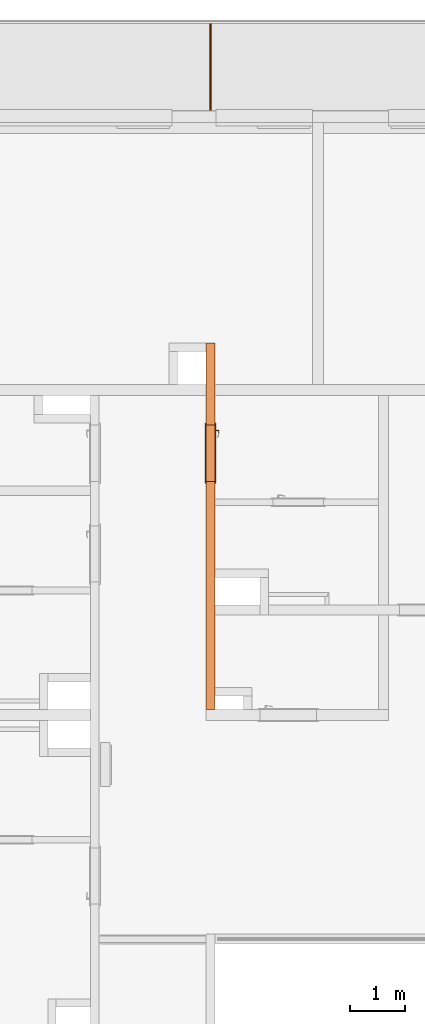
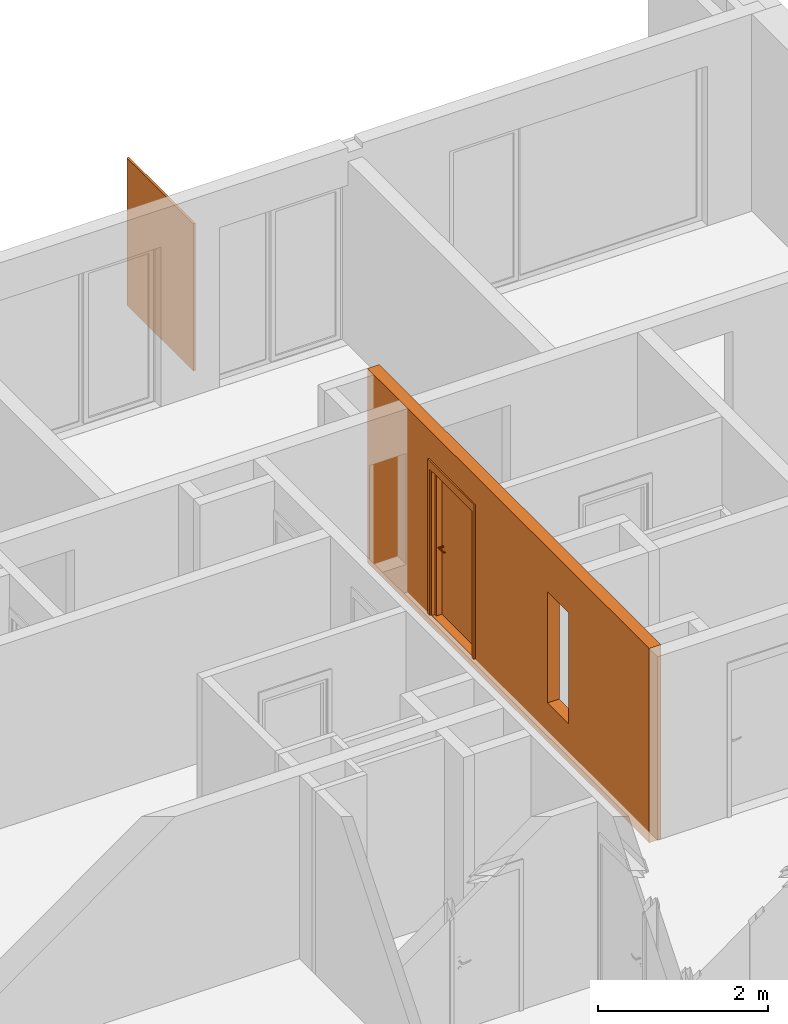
# One storey, part 32 of 67: 3 proxies, 2 openings.
"""IFC2X3 building model written with IfcOpenShell, lengths in millimetres."""

from ifc_helpers import new_model, entity, si_unit, converted_unit, derived_unit, money_unit, direction, frame, origin_with_axes, origin_2d_with_axis, place, context, subcontext, project, spatial, polyline, rectangle, outline, extrude, open_shell, faceted_brep, surface_model, source, transform, mapped, material, type_object, element, fill, save


model = new_model("IFC2X3")

# Units and contexts
model_context = context("Model", 3, precision=0.01, world=origin_with_axes(), true_north=direction((0.34421633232, 0.938890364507)))
body_context = subcontext(model_context, "Body", "Model", "MODEL_VIEW")
ifc_project = project(units=[si_unit("LENGTHUNIT", "METRE", prefix="MILLI"), si_unit("AREAUNIT", "SQUARE_METRE"), si_unit("VOLUMEUNIT", "CUBIC_METRE"), converted_unit("PLANEANGLEUNIT", "DEGREE", entity("IfcPlaneAngleMeasure", 0.0174532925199), si_unit("PLANEANGLEUNIT", "RADIAN"), dimensions=[0, 0, 0, 0, 0, 0, 0]), si_unit("SOLIDANGLEUNIT", "STERADIAN"), money_unit("USD"), converted_unit("TIMEUNIT", "Year", entity("IfcTimeMeasure", 31556926.0), si_unit("TIMEUNIT", "SECOND"), dimensions=[0, 0, 1, 0, 0, 0, 0]), si_unit("MASSUNIT", "GRAM", prefix="KILO"), si_unit("THERMODYNAMICTEMPERATUREUNIT", "DEGREE_CELSIUS"), si_unit("LUMINOUSINTENSITYUNIT", "LUMEN"), si_unit("ENERGYUNIT", "JOULE", prefix="MEGA"), derived_unit("THERMALCONDUCTANCEUNIT", [(si_unit("POWERUNIT", "WATT"), 1), (si_unit("LENGTHUNIT", "METRE"), -1), (si_unit("THERMODYNAMICTEMPERATUREUNIT", "KELVIN"), -1)]), derived_unit("SPECIFICHEATCAPACITYUNIT", [(si_unit("ENERGYUNIT", "JOULE"), 1), (si_unit("MASSUNIT", "GRAM", prefix="KILO"), -1), (si_unit("THERMODYNAMICTEMPERATUREUNIT", "KELVIN"), -1)]), derived_unit("MASSDENSITYUNIT", [(si_unit("MASSUNIT", "GRAM", prefix="KILO"), 1), (si_unit("VOLUMEUNIT", "CUBIC_METRE"), -1)])], contexts=[model_context])

# Site, building, storey
site_placement = place(None, origin_with_axes())
site = spatial("IfcSite", under=ifc_project, at=site_placement, Name="USTRONIE MORSKIE", CompositionType="ELEMENT")
building_placement = place(site_placement, origin_with_axes())
building = spatial("IfcBuilding", under=site, at=building_placement, Name="Budynek", CompositionType="ELEMENT")
storey_placement = place(building_placement, frame((0.0, 0.0, 4000.0), z_axis=(0.0, 0.0, 1.0), x_axis=(1.0, 0.0, 0.0)))
storey = spatial("IfcBuildingStorey", under=building, at=storey_placement, Name="PIĘTRO 1", CompositionType="ELEMENT", Elevation=4000.0)

# Proxies, openings
ifc_material_1 = material(Name="Beton konstrukcyjny B25")
building_element_proxy_type_1 = type_object("IfcBuildingElementProxyType", Name="Beton konstrukcyjny B25 160", PredefinedType="NOTDEFINED")
proxy_1_placement = place(storey_placement, frame((359617.920919, 745461.199937, -160.0), z_axis=(0.0, 0.0, 1.0), x_axis=(0.0, -1.0, 0.0)))
proxy_1 = element("IfcBuildingElementProxy", 1, at=proxy_1_placement, inside=storey, type_object=building_element_proxy_type_1, material=ifc_material_1, Name="SW-01", context=body_context, shape_type="Brep", body=[
    faceted_brep([(6560.00090117, 80.0, 0.0), (6560.00090117, -80.0, 0.0), (-90.0, -80.0, 0.0), (-90.0, 80.0, 0.0), (6560.00090117, 80.0, 2800.0), (6560.00090117, -80.0, 2800.0), (-90.0, -80.0, 2800.0), (-90.0, 80.0, 2800.0)], [[[0, 1, 2, 3]], [[1, 0, 4, 5]], [[1, 5, 6, 2]], [[7, 3, 2, 6]], [[4, 0, 3, 7]], [[5, 4, 7, 6]]]),
])
opening_1_placement = place(proxy_1_placement, frame((1910.00080912, 0.0, 160.0), z_axis=(0.0, 0.0, 1.0), x_axis=(1.0, 0.0, 0.0)))
opening_1 = element("IfcOpeningElement", 2, at=opening_1_placement, cuts=proxy_1, Name="Dw.1", context=body_context, shape_type="SweptSolid", body=[
    extrude(rectangle(XDim=1020.0, YDim=2120.0, at=origin_2d_with_axis()), frame((0.0, -160.0, 1060.0), z_axis=(0.0, 1.0, 0.0), x_axis=(1.0, 0.0, 0.0)), (0.0, 0.0, 1.0), 480.0),
    extrude(rectangle(XDim=1094.0, YDim=2227.0, at=origin_2d_with_axis()), frame((0.0, -80.0, 1113.5), z_axis=(0.0, 1.0, 0.0), x_axis=(1.0, 0.0, 0.0)), (0.0, 0.0, -1.0), 160.0),
    extrude(rectangle(XDim=1094.0, YDim=2227.0, at=origin_2d_with_axis()), frame((0.0, 80.0, 1113.5), z_axis=(0.0, -1.0, 0.0), x_axis=(1.0, 0.0, 0.0)), (0.0, 0.0, -1.0), 160.0),
])
opening_2_placement = place(proxy_1_placement, frame((4410.02046818, 0.0, 560.0), z_axis=(0.0, 0.0, 1.0), x_axis=(1.0, 0.0, 0.0)))
element("IfcOpeningElement", 3, at=opening_2_placement, cuts=proxy_1, Name="R.01", context=body_context, shape_type="SweptSolid", body=[
    extrude(rectangle(XDim=500.001816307, YDim=1600.0, at=origin_2d_with_axis()), frame((0.0, -80.0, 800.0), z_axis=(0.0, 1.0, 0.0), x_axis=(1.0, 0.0, 0.0)), (0.0, 0.0, -1.0), 160.0),
    extrude(rectangle(XDim=500.001816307, YDim=1600.0, at=origin_2d_with_axis()), frame((0.0, -80.0, 800.0), z_axis=(0.0, -1.0, 0.0), x_axis=(1.0, 0.0, 0.0)), (0.0, 0.0, -1.0), 160.0),
])
building_element_proxy_type_2 = type_object("IfcBuildingElementProxyType", Name="Drzwi 23", PredefinedType="NOTDEFINED")
shared_shape = source(origin_with_axes(), body_context, "Body", "SurfaceModel", [
    faceted_brep([(-510.0, -115.0, 0.0), (-485.0, -115.0, 0.0), (-485.0, -160.0, 0.0), (-510.0, -160.0, 0.0), (-510.0, -115.0, 2120.0), (-485.0, -115.0, 2095.0), (-485.0, -160.0, 2095.0), (-510.0, -160.0, 2120.0)], [[[0, 1, 2, 3]], [[0, 4, 5, 1]], [[1, 5, 6, 2]], [[3, 2, 6, 7]], [[4, 0, 3, 7]], [[5, 4, 7, 6]]]),
    faceted_brep([(510.0, -115.0, 2120.0), (485.0, -115.0, 2095.0), (485.0, -160.0, 2095.0), (510.0, -160.0, 2120.0), (510.0, -115.0, 0.0), (485.0, -115.0, 0.0), (485.0, -160.0, 0.0), (510.0, -160.0, 0.0)], [[[0, 1, 2, 3]], [[0, 4, 5, 1]], [[1, 5, 6, 2]], [[3, 2, 6, 7]], [[4, 0, 3, 7]], [[5, 4, 7, 6]]]),
    faceted_brep([(-485.0, -115.0, 2095.0), (485.0, -115.0, 2095.0), (485.0, -160.0, 2095.0), (-485.0, -160.0, 2095.0), (-510.0, -115.0, 2120.0), (510.0, -115.0, 2120.0), (510.0, -160.0, 2120.0), (-510.0, -160.0, 2120.0)], [[[0, 1, 2, 3]], [[0, 4, 5, 1]], [[1, 5, 6, 2]], [[3, 2, 6, 7]], [[4, 0, 3, 7]], [[5, 4, 7, 6]]]),
    faceted_brep([(-547.0, -179.0, 0.0), (-547.0, -160.0, 0.0), (-497.0, -160.0, 0.0), (-497.0, -179.0, 0.0), (-547.0, -179.0, 2227.0), (-547.0, -160.0, 2227.0), (-497.0, -160.0, 2107.0), (-497.0, -179.0, 2107.0)], [[[0, 1, 2, 3]], [[4, 5, 1, 0]], [[1, 5, 6, 2]], [[3, 2, 6, 7]], [[0, 3, 7, 4]], [[7, 6, 5, 4]]]),
    faceted_brep([(547.0, -179.0, 2227.0), (547.0, -160.0, 2227.0), (497.0, -160.0, 2107.0), (497.0, -179.0, 2107.0), (547.0, -179.0, 0.0), (547.0, -160.0, 0.0), (497.0, -160.0, 0.0), (497.0, -179.0, 0.0)], [[[0, 1, 2, 3]], [[4, 5, 1, 0]], [[1, 5, 6, 2]], [[3, 2, 6, 7]], [[0, 3, 7, 4]], [[7, 6, 5, 4]]]),
    faceted_brep([(-547.0, -179.0, 2227.0), (-547.0, -160.0, 2227.0), (-497.0, -160.0, 2107.0), (-497.0, -179.0, 2107.0), (547.0, -179.0, 2227.0), (547.0, -160.0, 2227.0), (497.0, -160.0, 2107.0), (497.0, -179.0, 2107.0)], [[[0, 1, 2, 3]], [[4, 5, 1, 0]], [[1, 5, 6, 2]], [[3, 2, 6, 7]], [[0, 3, 7, 4]], [[7, 6, 5, 4]]]),
    faceted_brep([(-547.0, 19.0, 0.0), (-497.0, 19.0, 0.0), (-497.0, 0.0, 0.0), (-547.0, 0.0, 0.0), (-547.0, 19.0, 2227.0), (-497.0, 19.0, 2107.0), (-497.0, 0.0, 2107.0), (-547.0, 0.0, 2227.0)], [[[0, 1, 2, 3]], [[0, 4, 5, 1]], [[1, 5, 6, 2]], [[3, 2, 6, 7]], [[4, 0, 3, 7]], [[5, 4, 7, 6]]]),
    faceted_brep([(547.0, 19.0, 2227.0), (497.0, 19.0, 2107.0), (497.0, 0.0, 2107.0), (547.0, 0.0, 2227.0), (547.0, 19.0, 0.0), (497.0, 19.0, 0.0), (497.0, 0.0, 0.0), (547.0, 0.0, 0.0)], [[[0, 1, 2, 3]], [[0, 4, 5, 1]], [[1, 5, 6, 2]], [[3, 2, 6, 7]], [[4, 0, 3, 7]], [[5, 4, 7, 6]]]),
    faceted_brep([(-547.0, 19.0, 2227.0), (-497.0, 19.0, 2107.0), (-497.0, 0.0, 2107.0), (-547.0, 0.0, 2227.0), (547.0, 19.0, 2227.0), (497.0, 19.0, 2107.0), (497.0, 0.0, 2107.0), (547.0, 0.0, 2227.0)], [[[0, 1, 2, 3]], [[0, 4, 5, 1]], [[1, 5, 6, 2]], [[3, 2, 6, 7]], [[4, 0, 3, 7]], [[5, 4, 7, 6]]]),
    faceted_brep([(-450.0, -40.0, 0.0), (-450.0, -40.0, 2050.0), (-450.0, -115.0, 2050.0), (-450.0, -115.0, 0.0), (-462.0, -40.0, 2050.0), (-462.0, -40.0, 0.0), (-462.0, 0.0, 2050.0), (-510.0, 0.0, 2050.0), (-510.0, -115.0, 2050.0), (-510.0, -115.0, 0.0), (-510.0, 0.0, 0.0), (-462.0, 0.0, 0.0)], [[[0, 1, 2, 3]], [[4, 1, 0, 5]], [[4, 6, 7, 8, 2, 1]], [[3, 2, 8, 9]], [[5, 0, 3, 9, 10, 11]], [[6, 4, 5, 11]], [[6, 11, 10, 7]], [[10, 9, 8, 7]]]),
    faceted_brep([(462.0, -40.0, 2050.0), (450.0, -40.0, 2050.0), (450.0, -115.0, 2050.0), (510.0, -115.0, 2050.0), (510.0, 0.0, 2050.0), (462.0, 0.0, 2050.0), (462.0, -40.0, 0.0), (450.0, -40.0, 0.0), (450.0, -115.0, 0.0), (510.0, -115.0, 0.0), (510.0, 0.0, 0.0), (462.0, 0.0, 0.0)], [[[0, 1, 2, 3, 4, 5]], [[1, 0, 6, 7]], [[1, 7, 8, 2]], [[3, 2, 8, 9]], [[4, 3, 9, 10]], [[11, 5, 4, 10]], [[0, 5, 11, 6]], [[6, 11, 10, 9, 8, 7]]]),
    faceted_brep([(-462.0, 0.0, 2062.0), (-462.0, 0.0, 2050.0), (-510.0, 0.0, 2050.0), (-510.0, 0.0, 2120.0), (510.0, 0.0, 2120.0), (510.0, 0.0, 2050.0), (462.0, 0.0, 2050.0), (462.0, 0.0, 2062.0), (-462.0, -40.0, 2062.0), (-462.0, -40.0, 2050.0), (-450.0, -40.0, 2050.0), (-450.0, -115.0, 2050.0), (-510.0, -115.0, 2050.0), (-510.0, -115.0, 2120.0), (510.0, -115.0, 2120.0), (510.0, -115.0, 2050.0), (462.0, -40.0, 2050.0), (450.0, -115.0, 2050.0), (450.0, -40.0, 2050.0), (462.0, -40.0, 2062.0)], [[[0, 1, 2, 3, 4, 5, 6, 7]], [[1, 0, 8, 9]], [[9, 10, 11, 12, 2, 1]], [[2, 12, 13, 3]], [[3, 13, 14, 4]], [[4, 14, 15, 5]], [[16, 6, 5, 15, 17, 18]], [[7, 6, 16, 19]], [[0, 7, 19, 8]], [[16, 18, 10, 9, 8, 19]], [[10, 18, 17, 11]], [[17, 15, 14, 13, 12, 11]]]),
    faceted_brep([(-440.5, -40.0, 1060.0), (-440.5, -43.0, 1060.0), (-383.5, -43.0, 1060.0), (-383.5, -40.0, 1060.0), (-440.5, -40.0, 870.0), (-440.5, -43.0, 870.0), (-383.5, -43.0, 870.0), (-383.5, -40.0, 870.0)], [[[0, 1, 2, 3]], [[4, 5, 1, 0]], [[1, 5, 6, 2]], [[3, 2, 6, 7]], [[0, 3, 7, 4]], [[7, 6, 5, 4]]]),
    faceted_brep([(-412.0, -104.0, 990.0), (-412.0, -111.0, 990.0), (-417.0, -111.0, 991.339745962), (-417.0, -104.0, 991.339745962), (-387.0, -104.0, 990.0), (-387.0, -111.0, 990.0), (-387.0, -111.0, 1010.0), (-412.0, -111.0, 1010.0), (-417.0, -111.0, 1008.66025404), (-420.660254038, -111.0, 1005.0), (-422.0, -111.0, 1000.0), (-420.660254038, -111.0, 995.0), (-420.660254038, -104.0, 995.0), (-422.0, -104.0, 1000.0), (-420.660254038, -104.0, 1005.0), (-417.0, -104.0, 1008.66025404), (-412.0, -104.0, 1010.0), (-387.0, -104.0, 1010.0)], [[[0, 1, 2, 3]], [[4, 5, 1, 0]], [[1, 5, 6, 7, 8, 9, 10, 11, 2]], [[3, 2, 11, 12]], [[0, 3, 12, 13, 14, 15, 16, 17, 4]], [[17, 6, 5, 4]], [[16, 7, 6, 17]], [[15, 8, 7, 16]], [[14, 9, 8, 15]], [[13, 10, 9, 14]], [[12, 11, 10, 13]]]),
    surface_model("IfcShellBasedSurfaceModel", [(-387.0, -104.0, 1010.0), (-373.596090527, -111.0, 1009.60730092), (-373.901717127, -104.0, 1009.60730092), (-387.0, -111.0, 1010.0), (-346.890283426, -108.663544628, 1008.82190275), (-373.901717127, -104.0, 990.392699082), (-387.0, -104.0, 990.0), (-387.0, -111.0, 990.0), (-373.596090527, -111.0, 990.392699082), (-346.890283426, -108.663544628, 991.178097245), (-347.804837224, -101.716818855, 1008.82190275), (-347.804837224, -101.716818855, 991.178097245), (-320.489735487, -104.008415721, 991.963495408), (-320.489735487, -104.008415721, 1008.03650459), (-322.006256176, -97.1678329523, 1008.03650459), (-322.006256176, -97.1678329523, 991.963495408), (-294.59537082, -97.0700416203, 992.748893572), (-294.59537082, -97.0700416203, 1007.25110643), (-296.702316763, -90.3876628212, 1007.25110643), (-296.702316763, -90.3876628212, 992.748893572), (-286.538795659, -94.1376880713, 993.0), (-286.538795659, -94.1376880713, 1007.0), (-288.829442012, -87.5221707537, 1007.0), (-288.829442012, -87.5221707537, 993.0)], [open_shell([[[0, 1, 2]], [[0, 3, 1]], [[2, 1, 4]], [[0, 2, 5, 6]], [[3, 7, 8, 1]], [[1, 8, 9, 4]], [[2, 4, 10]], [[2, 10, 11, 5]], [[5, 7, 6]], [[5, 8, 7]], [[11, 9, 8]], [[4, 9, 12, 13]], [[10, 4, 13]], [[10, 14, 15, 11]], [[11, 8, 5]], [[15, 9, 11]], [[15, 12, 9]], [[13, 12, 16, 17]], [[10, 13, 14]], [[14, 18, 19, 15]], [[19, 12, 15]], [[19, 16, 12]], [[17, 16, 20, 21]], [[14, 13, 17]], [[14, 17, 18]], [[18, 22, 23, 19]], [[23, 16, 19]], [[23, 20, 16]], [[22, 21, 20, 23]], [[18, 17, 21]], [[18, 21, 22]]])]),
    faceted_brep([(-401.607695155, -53.0, 994.0), (-400.741669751, -43.0, 993.5), (-399.0, -43.0, 1000.0), (-400.0, -53.0, 1000.0), (-406.0, -53.0, 989.607695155), (-405.5, -43.0, 988.741669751), (-412.0, -43.0, 987.0), (-418.5, -43.0, 988.741669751), (-423.258330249, -43.0, 993.5), (-425.0, -43.0, 1000.0), (-423.258330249, -43.0, 1006.5), (-418.5, -43.0, 1011.25833025), (-412.0, -43.0, 1013.0), (-405.5, -43.0, 1011.25833025), (-400.741669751, -43.0, 1006.5), (-401.607695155, -53.0, 1006.0), (-406.0, -53.0, 1010.39230485), (-412.0, -53.0, 1012.0), (-418.0, -53.0, 1010.39230485), (-422.392304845, -53.0, 1006.0), (-424.0, -53.0, 1000.0), (-422.392304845, -53.0, 994.0), (-418.0, -53.0, 989.607695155), (-412.0, -53.0, 988.0)], [[[0, 1, 2, 3]], [[4, 5, 1, 0]], [[2, 1, 5, 6, 7, 8, 9, 10, 11, 12, 13, 14]], [[3, 2, 14, 15]], [[3, 15, 16, 17, 18, 19, 20, 21, 22, 23, 4, 0]], [[23, 6, 5, 4]], [[22, 7, 6, 23]], [[21, 8, 7, 22]], [[20, 9, 8, 21]], [[19, 10, 9, 20]], [[18, 11, 10, 19]], [[17, 12, 11, 18]], [[16, 13, 12, 17]], [[15, 14, 13, 16]]]),
    faceted_brep([(-394.679491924, -47.0, 895.0), (-392.947441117, -43.0, 894.0), (-390.0, -43.0, 905.0), (-392.0, -47.0, 905.0), (-402.0, -47.0, 887.679491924), (-401.0, -43.0, 885.947441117), (-412.0, -43.0, 883.0), (-423.0, -43.0, 885.947441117), (-431.052558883, -43.0, 894.0), (-434.0, -43.0, 905.0), (-431.052558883, -43.0, 916.0), (-423.0, -43.0, 924.052558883), (-412.0, -43.0, 927.0), (-401.0, -43.0, 924.052558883), (-392.947441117, -43.0, 916.0), (-394.679491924, -47.0, 915.0), (-402.0, -47.0, 922.320508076), (-412.0, -47.0, 925.0), (-422.0, -47.0, 922.320508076), (-429.320508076, -47.0, 915.0), (-432.0, -47.0, 905.0), (-429.320508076, -47.0, 895.0), (-422.0, -47.0, 887.679491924), (-412.0, -47.0, 885.0)], [[[0, 1, 2, 3]], [[4, 5, 1, 0]], [[2, 1, 5, 6, 7, 8, 9, 10, 11, 12, 13, 14]], [[3, 2, 14, 15]], [[3, 15, 16, 17, 18, 19, 20, 21, 22, 23, 4, 0]], [[23, 6, 5, 4]], [[22, 7, 6, 23]], [[21, 8, 7, 22]], [[20, 9, 8, 21]], [[19, 10, 9, 20]], [[18, 11, 10, 19]], [[17, 12, 11, 18]], [[16, 13, 12, 17]], [[15, 14, 13, 16]]]),
    faceted_brep([(-407.050252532, -49.0, 909.050252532), (-406.343145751, -47.0, 908.343145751), (-404.0, -47.0, 914.0), (-405.0, -49.0, 914.0), (-412.0, -49.0, 907.0), (-412.0, -47.0, 906.0), (-417.656854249, -47.0, 908.343145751), (-420.0, -47.0, 914.0), (-417.656854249, -47.0, 919.656854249), (-412.0, -47.0, 922.0), (-406.343145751, -47.0, 919.656854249), (-407.050252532, -49.0, 918.949747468), (-412.0, -49.0, 921.0), (-416.949747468, -49.0, 918.949747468), (-419.0, -49.0, 914.0), (-416.949747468, -49.0, 909.050252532)], [[[0, 1, 2, 3]], [[4, 5, 1, 0]], [[2, 1, 5, 6, 7, 8, 9, 10]], [[3, 2, 10, 11]], [[3, 11, 12, 13, 14, 15, 4, 0]], [[15, 6, 5, 4]], [[14, 7, 6, 15]], [[13, 8, 7, 14]], [[12, 9, 8, 13]], [[11, 10, 9, 12]]]),
    faceted_brep([(-412.0, -53.0, 1010.0), (-412.0, -104.0, 1010.0), (-407.0, -104.0, 1008.66025404), (-407.0, -53.0, 1008.66025404), (-417.0, -53.0, 1008.66025404), (-417.0, -104.0, 1008.66025404), (-420.660254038, -104.0, 1005.0), (-422.0, -104.0, 1000.0), (-420.660254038, -104.0, 995.0), (-417.0, -104.0, 991.339745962), (-412.0, -104.0, 990.0), (-407.0, -104.0, 991.339745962), (-403.339745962, -104.0, 995.0), (-402.0, -104.0, 1000.0), (-403.339745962, -104.0, 1005.0), (-403.339745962, -53.0, 1005.0), (-402.0, -53.0, 1000.0), (-403.339745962, -53.0, 995.0), (-407.0, -53.0, 991.339745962), (-412.0, -53.0, 990.0), (-417.0, -53.0, 991.339745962), (-420.660254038, -53.0, 995.0), (-422.0, -53.0, 1000.0), (-420.660254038, -53.0, 1005.0)], [[[0, 1, 2, 3]], [[4, 5, 1, 0]], [[1, 5, 6, 7, 8, 9, 10, 11, 12, 13, 14, 2]], [[3, 2, 14, 15]], [[0, 3, 15, 16, 17, 18, 19, 20, 21, 22, 23, 4]], [[23, 6, 5, 4]], [[22, 7, 6, 23]], [[21, 8, 7, 22]], [[20, 9, 8, 21]], [[19, 10, 9, 20]], [[18, 11, 10, 19]], [[17, 12, 11, 18]], [[16, 13, 12, 17]], [[15, 14, 13, 16]]]),
    faceted_brep([(-440.5, 0.0, 1060.0), (-383.5, 0.0, 1060.0), (-383.5, 3.0, 1060.0), (-440.5, 3.0, 1060.0), (-440.5, 0.0, 870.0), (-383.5, 0.0, 870.0), (-383.5, 3.0, 870.0), (-440.5, 3.0, 870.0)], [[[0, 1, 2, 3]], [[0, 4, 5, 1]], [[1, 5, 6, 2]], [[3, 2, 6, 7]], [[4, 0, 3, 7]], [[5, 4, 7, 6]]]),
    faceted_brep([(-412.0, 64.0, 990.0), (-417.0, 64.0, 991.339745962), (-417.0, 71.0, 991.339745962), (-412.0, 71.0, 990.0), (-387.0, 64.0, 990.0), (-387.0, 64.0, 1010.0), (-412.0, 64.0, 1010.0), (-417.0, 64.0, 1008.66025404), (-420.660254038, 64.0, 1005.0), (-422.0, 64.0, 1000.0), (-420.660254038, 64.0, 995.0), (-420.660254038, 71.0, 995.0), (-422.0, 71.0, 1000.0), (-420.660254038, 71.0, 1005.0), (-417.0, 71.0, 1008.66025404), (-412.0, 71.0, 1010.0), (-387.0, 71.0, 1010.0), (-387.0, 71.0, 990.0)], [[[0, 1, 2, 3]], [[0, 4, 5, 6, 7, 8, 9, 10, 1]], [[1, 10, 11, 2]], [[3, 2, 11, 12, 13, 14, 15, 16, 17]], [[4, 0, 3, 17]], [[5, 4, 17, 16]], [[6, 5, 16, 15]], [[7, 6, 15, 14]], [[8, 7, 14, 13]], [[9, 8, 13, 12]], [[10, 9, 12, 11]]]),
    surface_model("IfcShellBasedSurfaceModel", [(-387.0, 64.0, 1010.0), (-373.901717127, 64.0, 1009.60730092), (-373.596090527, 71.0, 1009.60730092), (-387.0, 64.0, 990.0), (-373.901717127, 64.0, 990.392699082), (-346.890283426, 68.6635446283, 1008.82190275), (-387.0, 71.0, 1010.0), (-387.0, 71.0, 990.0), (-347.804837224, 61.716818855, 991.178097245), (-347.804837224, 61.716818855, 1008.82190275), (-346.890283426, 68.6635446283, 991.178097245), (-373.596090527, 71.0, 990.392699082), (-322.006256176, 57.1678329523, 991.963495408), (-322.006256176, 57.1678329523, 1008.03650459), (-320.489735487, 64.0084157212, 1008.03650459), (-320.489735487, 64.0084157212, 991.963495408), (-296.702316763, 50.3876628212, 992.748893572), (-296.702316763, 50.3876628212, 1007.25110643), (-294.59537082, 57.0700416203, 1007.25110643), (-294.59537082, 57.0700416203, 992.748893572), (-288.829442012, 47.5221707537, 993.0), (-288.829442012, 47.5221707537, 1007.0), (-286.538795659, 54.1376880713, 1007.0), (-286.538795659, 54.1376880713, 993.0)], [open_shell([[[0, 1, 2]], [[0, 3, 4, 1]], [[1, 5, 2]], [[0, 2, 6]], [[4, 3, 7]], [[1, 4, 8, 9]], [[1, 9, 5]], [[2, 5, 10, 11]], [[6, 2, 11, 7]], [[4, 7, 11]], [[8, 4, 11]], [[9, 8, 12, 13]], [[9, 14, 5]], [[5, 14, 15, 10]], [[8, 11, 10]], [[12, 8, 10]], [[13, 12, 16, 17]], [[9, 13, 14]], [[14, 18, 19, 15]], [[12, 10, 15]], [[16, 12, 15]], [[17, 16, 20, 21]], [[13, 17, 18]], [[13, 18, 14]], [[18, 22, 23, 19]], [[16, 15, 19]], [[20, 16, 19]], [[21, 20, 23, 22]], [[17, 21, 22]], [[17, 22, 18]], [[20, 19, 23]]])]),
    faceted_brep([(-401.607695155, 13.0, 994.0), (-400.0, 13.0, 1000.0), (-399.0, 3.0, 1000.0), (-400.741669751, 3.0, 993.5), (-406.0, 13.0, 989.607695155), (-412.0, 13.0, 988.0), (-418.0, 13.0, 989.607695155), (-422.392304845, 13.0, 994.0), (-424.0, 13.0, 1000.0), (-422.392304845, 13.0, 1006.0), (-418.0, 13.0, 1010.39230485), (-412.0, 13.0, 1012.0), (-406.0, 13.0, 1010.39230485), (-401.607695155, 13.0, 1006.0), (-400.741669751, 3.0, 1006.5), (-405.5, 3.0, 1011.25833025), (-412.0, 3.0, 1013.0), (-418.5, 3.0, 1011.25833025), (-423.258330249, 3.0, 1006.5), (-425.0, 3.0, 1000.0), (-423.258330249, 3.0, 993.5), (-418.5, 3.0, 988.741669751), (-412.0, 3.0, 987.0), (-405.5, 3.0, 988.741669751)], [[[0, 1, 2, 3]], [[1, 0, 4, 5, 6, 7, 8, 9, 10, 11, 12, 13]], [[1, 13, 14, 2]], [[2, 14, 15, 16, 17, 18, 19, 20, 21, 22, 23, 3]], [[4, 0, 3, 23]], [[5, 4, 23, 22]], [[6, 5, 22, 21]], [[7, 6, 21, 20]], [[8, 7, 20, 19]], [[9, 8, 19, 18]], [[10, 9, 18, 17]], [[11, 10, 17, 16]], [[12, 11, 16, 15]], [[13, 12, 15, 14]]]),
    faceted_brep([(-394.679491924, 7.0, 895.0), (-392.0, 7.0, 905.0), (-390.0, 3.0, 905.0), (-392.947441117, 3.0, 894.0), (-402.0, 7.0, 887.679491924), (-412.0, 7.0, 885.0), (-422.0, 7.0, 887.679491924), (-429.320508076, 7.0, 895.0), (-432.0, 7.0, 905.0), (-429.320508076, 7.0, 915.0), (-422.0, 7.0, 922.320508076), (-412.0, 7.0, 925.0), (-402.0, 7.0, 922.320508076), (-394.679491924, 7.0, 915.0), (-392.947441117, 3.0, 916.0), (-401.0, 3.0, 924.052558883), (-412.0, 3.0, 927.0), (-423.0, 3.0, 924.052558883), (-431.052558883, 3.0, 916.0), (-434.0, 3.0, 905.0), (-431.052558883, 3.0, 894.0), (-423.0, 3.0, 885.947441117), (-412.0, 3.0, 883.0), (-401.0, 3.0, 885.947441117)], [[[0, 1, 2, 3]], [[1, 0, 4, 5, 6, 7, 8, 9, 10, 11, 12, 13]], [[1, 13, 14, 2]], [[2, 14, 15, 16, 17, 18, 19, 20, 21, 22, 23, 3]], [[4, 0, 3, 23]], [[5, 4, 23, 22]], [[6, 5, 22, 21]], [[7, 6, 21, 20]], [[8, 7, 20, 19]], [[9, 8, 19, 18]], [[10, 9, 18, 17]], [[11, 10, 17, 16]], [[12, 11, 16, 15]], [[13, 12, 15, 14]]]),
    faceted_brep([(-407.050252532, 9.0, 909.050252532), (-405.0, 9.0, 914.0), (-404.0, 7.0, 914.0), (-406.343145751, 7.0, 908.343145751), (-412.0, 9.0, 907.0), (-416.949747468, 9.0, 909.050252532), (-419.0, 9.0, 914.0), (-416.949747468, 9.0, 918.949747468), (-412.0, 9.0, 921.0), (-407.050252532, 9.0, 918.949747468), (-406.343145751, 7.0, 919.656854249), (-412.0, 7.0, 922.0), (-417.656854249, 7.0, 919.656854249), (-420.0, 7.0, 914.0), (-417.656854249, 7.0, 908.343145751), (-412.0, 7.0, 906.0)], [[[0, 1, 2, 3]], [[1, 0, 4, 5, 6, 7, 8, 9]], [[1, 9, 10, 2]], [[2, 10, 11, 12, 13, 14, 15, 3]], [[4, 0, 3, 15]], [[5, 4, 15, 14]], [[6, 5, 14, 13]], [[7, 6, 13, 12]], [[8, 7, 12, 11]], [[9, 8, 11, 10]]]),
    faceted_brep([(-412.0, 13.0, 1010.0), (-407.0, 13.0, 1008.66025404), (-407.0, 64.0, 1008.66025404), (-412.0, 64.0, 1010.0), (-417.0, 13.0, 1008.66025404), (-420.660254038, 13.0, 1005.0), (-422.0, 13.0, 1000.0), (-420.660254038, 13.0, 995.0), (-417.0, 13.0, 991.339745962), (-412.0, 13.0, 990.0), (-407.0, 13.0, 991.339745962), (-403.339745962, 13.0, 995.0), (-402.0, 13.0, 1000.0), (-403.339745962, 13.0, 1005.0), (-403.339745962, 64.0, 1005.0), (-402.0, 64.0, 1000.0), (-403.339745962, 64.0, 995.0), (-407.0, 64.0, 991.339745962), (-412.0, 64.0, 990.0), (-417.0, 64.0, 991.339745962), (-420.660254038, 64.0, 995.0), (-422.0, 64.0, 1000.0), (-420.660254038, 64.0, 1005.0), (-417.0, 64.0, 1008.66025404)], [[[0, 1, 2, 3]], [[0, 4, 5, 6, 7, 8, 9, 10, 11, 12, 13, 1]], [[1, 13, 14, 2]], [[3, 2, 14, 15, 16, 17, 18, 19, 20, 21, 22, 23]], [[4, 0, 3, 23]], [[5, 4, 23, 22]], [[6, 5, 22, 21]], [[7, 6, 21, 20]], [[8, 7, 20, 19]], [[9, 8, 19, 18]], [[10, 9, 18, 17]], [[11, 10, 17, 16]], [[12, 11, 16, 15]], [[13, 12, 15, 14]]]),
    faceted_brep([(462.0, 0.0, 0.0), (462.0, -40.0, 0.0), (-462.0, -40.0, 0.0), (-462.0, 0.0, 0.0), (462.0, 0.0, 2062.0), (462.0, -40.0, 2062.0), (-462.0, -40.0, 2062.0), (-462.0, 0.0, 2062.0)], [[[0, 1, 2, 3]], [[4, 5, 1, 0]], [[1, 5, 6, 2]], [[3, 2, 6, 7]], [[0, 3, 7, 4]], [[7, 6, 5, 4]]]),
])
proxy_2_placement = place(opening_1_placement, frame((-450.0, 0.0, 0.0), z_axis=(0.0, 0.0, 1.0), x_axis=(1.0, 0.0, 0.0)))
proxy_2 = element("IfcBuildingElementProxy", 4, at=proxy_2_placement, inside=storey, type_object=building_element_proxy_type_2, Name="Dw.1", context=body_context, shape_type="MappedRepresentation", body=[
    mapped(shared_shape, transform((450.0, 80.0, 0.0))),
])
fill(opening_1, proxy_2)

# Proxy
ifc_material_2 = material(Name="Woda")
building_element_proxy_type_3 = type_object("IfcBuildingElementProxyType", Name="Woda 30", PredefinedType="NOTDEFINED")
proxy_3_placement = place(storey_placement, frame((359617.920897, 749771.199036, 20.0), z_axis=(0.0, 0.0, 1.0), x_axis=(0.0, 1.0, 0.0)))
element("IfcBuildingElementProxy", 5, at=proxy_3_placement, inside=storey, type_object=building_element_proxy_type_3, material=ifc_material_2, Name="Œciana-007", context=body_context, shape_type="SweptSolid", body=[
    extrude(outline(polyline([(0.0, -15.0), (1569.98576119, -15.0), (1569.98576119, 15.0), (0.0, 15.0), (0.0, -15.0)])), origin_with_axes(), (0.0, 0.0, 1.0), 2120.0),
])

save(model, "model.ifc")
